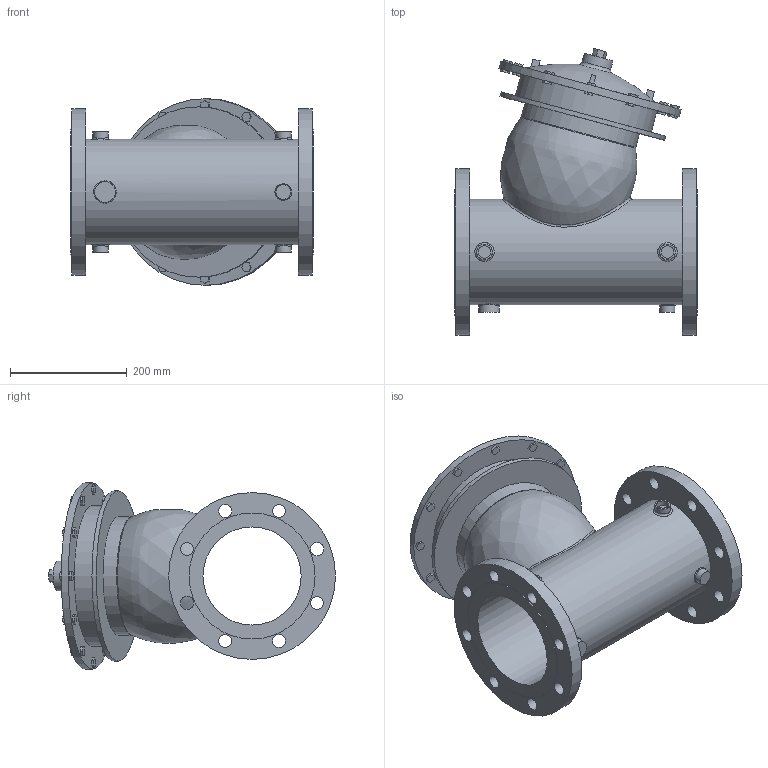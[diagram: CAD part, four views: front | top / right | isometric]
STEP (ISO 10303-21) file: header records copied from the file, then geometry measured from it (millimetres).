
FILE_DESCRIPTION(/* description */ ('VIC FP VALVE PRESSURE RELIEF SERIES 867-7UF (FLG 150)','CAx-IF Rec.Pracs.---Representation and Presentation of Product Manufacturing Information (PMI)---4.0---2014-10-13'),/* implementation_level */ '2;1');
FILE_NAME(/* name */ 'C:\Series 867-7UF\New folder (2)\step\Victaulic_FP-Bermad_Valve Pressure Relief_Series 867-7UF (FLG 150)\Victaulic_FP-Bermad_Valve Pressure Relief_Series 867-7UF (FLG 150)_6 (150).stp',/* time_stamp */ '2021-09-02T12:09:16+06:00',/* author */ ('kkamble'),/* organization */ ('Victaulic'),/* preprocessor_version */ 'ST-DEVELOPER v17.2',/* originating_system */ 'Autodesk Inventor 2019',/* authorisation */ '');
FILE_SCHEMA (('AP242_MANAGED_MODEL_BASED_3D_ENGINEERING_MIM_LF { 1 0 10303 442 1 1 4 }'));
Length unit declared in the file: inch
Products named in the file (1): 867-7UF-06.0
Bounding box: 415.04 x 492 x 320.04 mm (x, y, z)
Volume: 13036978.6 mm3; surface area: 1049825.8 mm2
Topology: 6 solids, 6 shells, 270 faces, 677 edges, 459 vertices
Faces by surface type: plane 216, cylinder 43, bspline 9, torus 2
Full cylindrical faces by diameter (mm): 21.336 x4, 22.225 x16, 25.4 x1, 26.873 x4, 35.56 x1, 50.8 x1, 168.275 x1, 180.975 x1, 203.2 x1, 215.9 x2, 241.3 x1, 286.004 x2, 292.1 x1, 320.04 x1
Entity records: 9541 total; most frequent: CARTESIAN_POINT 2584, ORIENTED_EDGE 1366, DIRECTION 1286, EDGE_CURVE 683, LINE 528, VECTOR 528, VERTEX_POINT 465, AXIS2_PLACEMENT_3D 379
